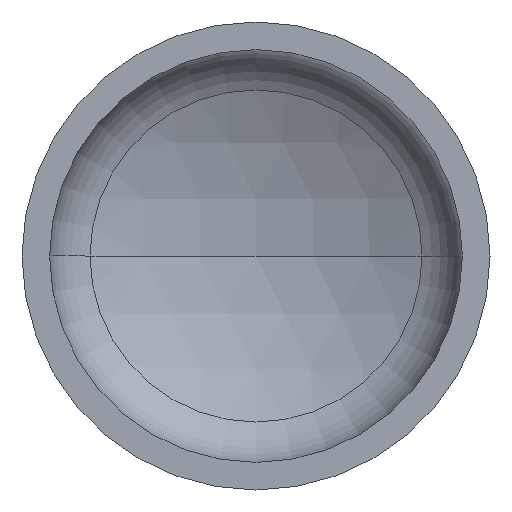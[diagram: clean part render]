
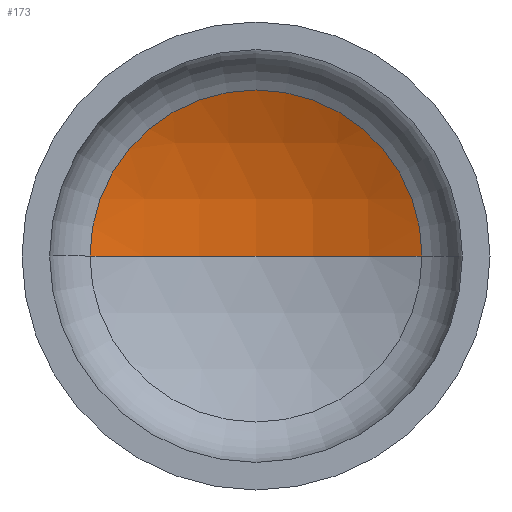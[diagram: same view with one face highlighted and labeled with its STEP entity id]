
A CAD part, front view. The second image highlights one B-rep face of the part: STEP entity #173.
In plain terms, the highlighted spherical face has radius 1600 mm.
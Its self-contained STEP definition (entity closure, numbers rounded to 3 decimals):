
#29 = ORIENTED_EDGE ( 'NONE', *, *, #59, .T. ) ;
#49 = VERTEX_POINT ( 'NONE', #268 ) ;
#50 = DIRECTION ( 'NONE',  ( 0., -1., 0. ) ) ;
#57 = EDGE_CURVE ( 'NONE', #49, #298, #335, .T. ) ;
#59 = EDGE_CURVE ( 'NONE', #75, #49, #267, .T. ) ;
#75 = VERTEX_POINT ( 'NONE', #264 ) ;
#79 = EDGE_LOOP ( 'NONE', ( #100, #29, #95 ) ) ;
#95 = ORIENTED_EDGE ( 'NONE', *, *, #57, .T. ) ;
#100 = ORIENTED_EDGE ( 'NONE', *, *, #164, .F. ) ;
#139 = SPHERICAL_SURFACE ( 'NONE', #235, 1600. ) ;
#164 = EDGE_CURVE ( 'NONE', #75, #298, #193, .T. ) ;
#173 = ADVANCED_FACE ( 'NONE', ( #256 ), #139, .F. ) ;
#182 = AXIS2_PLACEMENT_3D ( 'NONE', #392, #358, #333 ) ;
#193 = CIRCLE ( 'NONE', #182, 1600. ) ;
#207 = CARTESIAN_POINT ( 'NONE',  ( -709.457, 352.859, 0. ) ) ;
#235 = AXIS2_PLACEMENT_3D ( 'NONE', #255, #272, #336 ) ;
#255 = CARTESIAN_POINT ( 'NONE',  ( 0., -1081.251, 0. ) ) ;
#256 = FACE_OUTER_BOUND ( 'NONE', #79, .T. ) ;
#264 = CARTESIAN_POINT ( 'NONE',  ( 0., 518.749, 0. ) ) ;
#267 = CIRCLE ( 'NONE', #410, 1600. ) ;
#268 = CARTESIAN_POINT ( 'NONE',  ( 709.457, 352.859, 0. ) ) ;
#272 = DIRECTION ( 'NONE',  ( 0., 0., -1. ) ) ;
#298 = VERTEX_POINT ( 'NONE', #207 ) ;
#299 = DIRECTION ( 'NONE',  ( 0., 0., -1. ) ) ;
#333 = DIRECTION ( 'NONE',  ( 1., 0., 0. ) ) ;
#335 = CIRCLE ( 'NONE', #396, 709.457 ) ;
#336 = DIRECTION ( 'NONE',  ( -1., 0., 0. ) ) ;
#358 = DIRECTION ( 'NONE',  ( 0., 0., 1. ) ) ;
#361 = DIRECTION ( 'NONE',  ( -1., 0., 0. ) ) ;
#384 = DIRECTION ( 'NONE',  ( 1., 0., 0. ) ) ;
#392 = CARTESIAN_POINT ( 'NONE',  ( 0., -1081.251, 0. ) ) ;
#394 = CARTESIAN_POINT ( 'NONE',  ( 0., -1081.251, 0. ) ) ;
#396 = AXIS2_PLACEMENT_3D ( 'NONE', #398, #50, #384 ) ;
#398 = CARTESIAN_POINT ( 'NONE',  ( 0., 352.859, 0. ) ) ;
#410 = AXIS2_PLACEMENT_3D ( 'NONE', #394, #299, #361 ) ;
